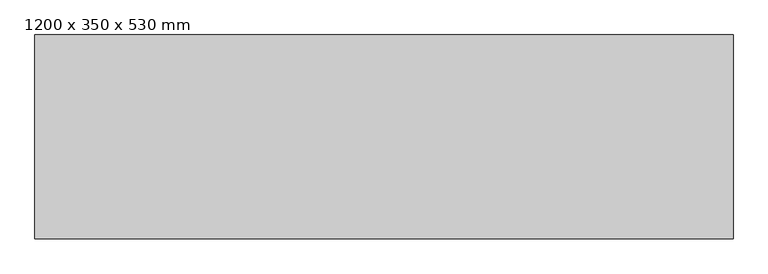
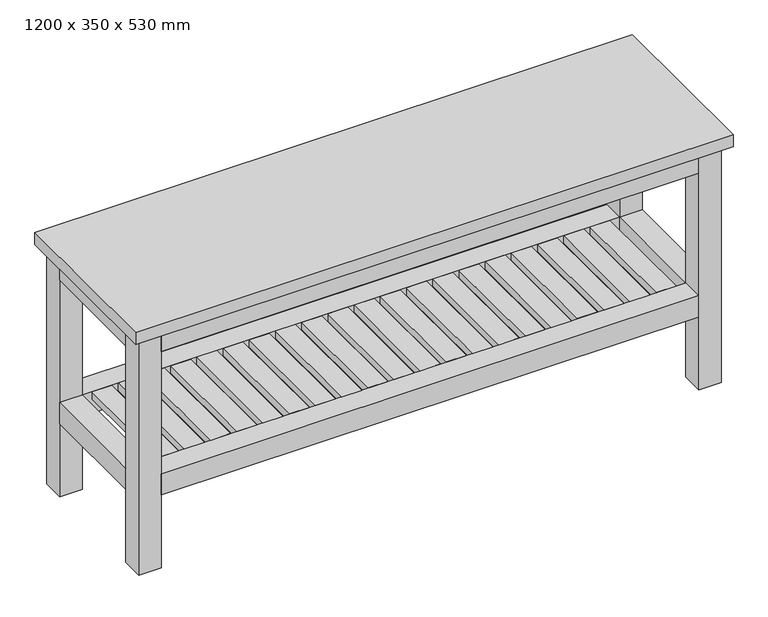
"""IFC4 building model written with IfcOpenShell, lengths in millimetres: furniture geometry, Banc : 1200 x 350 x 530 mm."""

import ifcopenshell
import ifcopenshell.guid

model = None  # the IFC model being written
_history = None  # IfcOwnerHistory: only IFC2X3 demands one
_inside = {}  # id of a spatial element -> (the spatial element, [elements in it])
_under = {}  # id of a project, library or spatial element -> (it, [spatial elements below it])
_declared = {}  # id of a project -> (the project, [libraries it declares])
_typed = {}  # id of a type object -> (the type object, [elements of that type])
_made_of = {}  # id of a material, layer set ... -> (it, [elements and type objects made of it])


def new_model(schema):
    """Start an empty IFC model of exactly this schema.

    Asked for "IFC4X3", IfcOpenShell would pick the latest addendum, in which some entities
    have other attributes; the version numbers below select the first issue.
    IFC2X3 requires an IfcOwnerHistory on every rooted entity: one is made here for all.
    """
    global model, _history
    if schema == "IFC4X3":
        model = ifcopenshell.file(schema_version=(4, 3, 0, 0))
    else:
        model = ifcopenshell.file(schema=schema)
    _inside.clear()
    _under.clear()
    _declared.clear()
    _typed.clear()
    _made_of.clear()
    _history = None
    if model.schema == "IFC2X3":
        org = make("IfcOrganization", Name="unknown")
        user = make(
            "IfcPersonAndOrganization",
            ThePerson=make("IfcPerson", FamilyName="unknown"),
            TheOrganization=org,
        )
        app = make(
            "IfcApplication",
            ApplicationDeveloper=org,
            Version="unknown",
            ApplicationFullName="unknown",
            ApplicationIdentifier="unknown",
        )
        _history = make(
            "IfcOwnerHistory",
            OwningUser=user,
            OwningApplication=app,
            ChangeAction="ADDED",
            CreationDate=0,
        )
    return model


def make(cls, **values):
    """One entity of the class cls with the attributes given. An attribute that is None is left unset."""
    return model.create_entity(
        cls, **{name: value for name, value in values.items() if value is not None}
    )


def rooted(cls, **values):
    """An entity with a GlobalId (a new one), such as an element, a storey or a relation."""
    return make(cls, GlobalId=ifcopenshell.guid.new(), OwnerHistory=_history, **values)


def si_unit(unit_type, name, prefix=None):
    """IfcSIUnit, for example si_unit("LENGTHUNIT", "METRE", prefix="MILLI")."""
    return make("IfcSIUnit", UnitType=unit_type, Prefix=prefix, Name=name)


def assignment(units):
    """IfcUnitAssignment: the units of a project."""
    return None if units is None else make("IfcUnitAssignment", Units=units)


def point(xyz):
    """IfcCartesianPoint."""
    return None if xyz is None else make("IfcCartesianPoint", Coordinates=xyz)


def direction(xyz):
    """IfcDirection."""
    return None if xyz is None else make("IfcDirection", DirectionRatios=xyz)


def frame(location, z_axis=None, x_axis=None):
    """IfcAxis2Placement3D, a coordinate frame: its origin and axes. An axis left out is left unset."""
    return make(
        "IfcAxis2Placement3D",
        Location=point(location),
        Axis=direction(z_axis),
        RefDirection=direction(x_axis),
    )


def origin():
    """The frame at (0, 0, 0) with its axes left unset."""
    return frame((0.0, 0.0, 0.0))


def origin_with_axes():
    """The frame at (0, 0, 0) with the z axis (0, 0, 1) and the x axis (1, 0, 0) written out."""
    return frame((0.0, 0.0, 0.0), z_axis=(0.0, 0.0, 1.0), x_axis=(1.0, 0.0, 0.0))


def place(relative_to, where):
    """IfcLocalPlacement: puts the frame where relative to a parent placement (None: the world)."""
    return make(
        "IfcLocalPlacement", PlacementRelTo=relative_to, RelativePlacement=where
    )


def context(
    kind, dimensions, precision=None, world=None, true_north=None, identifier=None
):
    """IfcGeometricRepresentationContext, for example the 3D "Model" context."""
    return make(
        "IfcGeometricRepresentationContext",
        ContextIdentifier=identifier,
        ContextType=kind,
        CoordinateSpaceDimension=dimensions,
        Precision=precision,
        WorldCoordinateSystem=world,
        TrueNorth=true_north,
    )


def project(units=None, contexts=None):
    """IfcProject with its units and contexts."""
    return rooted(
        "IfcProject",
        Name="project",
        RepresentationContexts=contexts,
        UnitsInContext=assignment(units),
    )


def spatial(cls, under=None, at=None, **own):
    """A site, building, storey or space (cls), placed at a placement, below another one or the project."""
    s = rooted(cls, ObjectPlacement=at, **own)
    if under is not None:
        _under.setdefault(under.id(), (under, []))[1].append(s)
    return s


def polyline(points):
    """IfcPolyline through the points."""
    return make("IfcPolyline", Points=[point(p) for p in points])


def outline(outer, holes=None, kind="AREA"):
    """IfcArbitraryClosedProfileDef: a profile drawn as a closed curve; with holes, ...WithVoids."""
    if holes is None:
        return make("IfcArbitraryClosedProfileDef", ProfileType=kind, OuterCurve=outer)
    return make(
        "IfcArbitraryProfileDefWithVoids",
        ProfileType=kind,
        OuterCurve=outer,
        InnerCurves=holes,
    )


def extrude(swept, where, along, depth):
    """IfcExtrudedAreaSolid: the profile swept, set in the frame where, extruded along a direction by depth."""
    return make(
        "IfcExtrudedAreaSolid",
        SweptArea=swept,
        Position=where,
        ExtrudedDirection=direction(along),
        Depth=depth,
    )


def shape(context_of_items, identifier, shape_type, items):
    """IfcShapeRepresentation: the items that make up one representation, for example the "Body"."""
    return make(
        "IfcShapeRepresentation",
        ContextOfItems=context_of_items,
        RepresentationIdentifier=identifier,
        RepresentationType=shape_type,
        Items=items,
    )


def source(mapping_origin, context_of_items, identifier, shape_type, items):
    """IfcRepresentationMap: a shape defined once, which mapped items show again and again."""
    return make(
        "IfcRepresentationMap",
        MappingOrigin=mapping_origin,
        MappedRepresentation=shape(context_of_items, identifier, shape_type, items),
    )


def transform(
    local_origin,
    x_axis=None,
    y_axis=None,
    z_axis=None,
    scale=None,
    scale2=None,
    scale3=None,
    uniform=True,
):
    """IfcCartesianTransformationOperator3D, or its non-uniform kind. x_axis, y_axis, z_axis: its Axis1, 2, 3."""
    if uniform:
        return make(
            "IfcCartesianTransformationOperator3D",
            Axis1=direction(x_axis),
            Axis2=direction(y_axis),
            LocalOrigin=point(local_origin),
            Scale=scale,
            Axis3=direction(z_axis),
        )
    return make(
        "IfcCartesianTransformationOperator3DnonUniform",
        Axis1=direction(x_axis),
        Axis2=direction(y_axis),
        LocalOrigin=point(local_origin),
        Scale=scale,
        Axis3=direction(z_axis),
        Scale2=scale2,
        Scale3=scale3,
    )


def mapped(mapping_source, mapping_target):
    """IfcMappedItem: shows the shape of a source again, moved by a transform."""
    return make(
        "IfcMappedItem", MappingSource=mapping_source, MappingTarget=mapping_target
    )


def made_of(thing, what):
    """Note that an element or type object is made of a material, layer set ...; save() writes the relation."""
    if what is not None:
        _made_of.setdefault(what.id(), (what, []))[1].append(thing)
    return thing


def element(
    cls,
    number,
    at=None,
    inside=None,
    cuts=None,
    type_object=None,
    material=None,
    context=None,
    identifier="Body",
    shape_type=None,
    held_by="IfcProductDefinitionShape",
    body=None,
    shapes=None,
    **own,
):
    """One element of the class cls, such as IfcWall. Its Tag is "e" and its number.

    at: its placement. inside: the storey or other place that contains it. cuts: it is an
    opening in that element (IfcRelVoidsElement). A single representation is given by context,
    identifier, shape_type and body (its items); several are given by shapes. held_by: the class
    of the entity that holds the representations. save() writes the other relations.
    """
    e = rooted(cls, Tag="e%d" % number, ObjectPlacement=at, **own)
    if body is not None:
        shapes = [shape(context, identifier, shape_type, body)]
    if shapes is not None:
        e.Representation = make(held_by, Representations=shapes)
    if inside is not None:
        _inside.setdefault(inside.id(), (inside, []))[1].append(e)
    if cuts is not None:
        rooted(
            "IfcRelVoidsElement", RelatingBuildingElement=cuts, RelatedOpeningElement=e
        )
    if type_object is not None:
        _typed.setdefault(type_object.id(), (type_object, []))[1].append(e)
    return made_of(e, material)


def aggregate(whole, parts):
    """IfcRelAggregates: a whole, such as a stair, and the parts it consists of."""
    return rooted("IfcRelAggregates", RelatingObject=whole, RelatedObjects=parts)


def save(model, path):
    """Write the relations noted so far, then the file.

    IfcRelAggregates (storeys below a building ...), IfcRelContainedInSpatialStructure (elements
    in a storey), IfcRelDefinesByType, IfcRelAssociatesMaterial and IfcRelDeclares: one each for
    every whole, place, type object, material and project.
    """
    for whole, parts in _under.values():
        aggregate(whole, parts)
    for where, things in _inside.values():
        rooted(
            "IfcRelContainedInSpatialStructure",
            RelatedElements=things,
            RelatingStructure=where,
        )
    for kind, things in _typed.values():
        rooted("IfcRelDefinesByType", RelatedObjects=things, RelatingType=kind)
    for what, things in _made_of.values():
        rooted("IfcRelAssociatesMaterial", RelatedObjects=things, RelatingMaterial=what)
    for by, libraries in _declared.values():
        rooted("IfcRelDeclares", RelatingContext=by, RelatedDefinitions=libraries)
    model.write(path)


def furniture_1200_x_350_x_530_mm_359cf0c6(model_context):
    return source(origin(), model_context, "Body", "SweptSolid", [
        extrude(outline(polyline([(467.3684211, -70.0), (467.3684211, -300.0), (427.3684211, -300.0), (427.3684211, -70.0), (467.3684211, -70.0)])), frame((0.0, 0.0, 185.0), z_axis=(0.0, 0.0, 1.0), x_axis=(1.0, 0.0, 0.0)), (0.0, 0.0, 1.0), 15.0),
        extrude(outline(polyline([(414.7368421, -70.0), (414.7368421, -300.0), (374.7368421, -300.0), (374.7368421, -70.0), (414.7368421, -70.0)])), frame((0.0, 0.0, 185.0), z_axis=(0.0, 0.0, 1.0), x_axis=(1.0, 0.0, 0.0)), (0.0, 0.0, 1.0), 15.0),
        extrude(outline(polyline([(362.1052632, -70.0), (362.1052632, -300.0), (322.1052632, -300.0), (322.1052632, -70.0), (362.1052632, -70.0)])), frame((0.0, 0.0, 185.0), z_axis=(0.0, 0.0, 1.0), x_axis=(1.0, 0.0, 0.0)), (0.0, 0.0, 1.0), 15.0),
        extrude(outline(polyline([(309.4736842, -70.0), (309.4736842, -300.0), (269.4736842, -300.0), (269.4736842, -70.0), (309.4736842, -70.0)])), frame((0.0, 0.0, 185.0), z_axis=(0.0, 0.0, 1.0), x_axis=(1.0, 0.0, 0.0)), (0.0, 0.0, 1.0), 15.0),
        extrude(outline(polyline([(256.8421053, -70.0), (256.8421053, -300.0), (216.8421053, -300.0), (216.8421053, -70.0), (256.8421053, -70.0)])), frame((0.0, 0.0, 185.0), z_axis=(0.0, 0.0, 1.0), x_axis=(1.0, 0.0, 0.0)), (0.0, 0.0, 1.0), 15.0),
        extrude(outline(polyline([(204.2105263, -70.0), (204.2105263, -300.0), (164.2105263, -300.0), (164.2105263, -70.0), (204.2105263, -70.0)])), frame((0.0, 0.0, 185.0), z_axis=(0.0, 0.0, 1.0), x_axis=(1.0, 0.0, 0.0)), (0.0, 0.0, 1.0), 15.0),
        extrude(outline(polyline([(151.5789474, -70.0), (151.5789474, -300.0), (111.5789474, -300.0), (111.5789474, -70.0), (151.5789474, -70.0)])), frame((0.0, 0.0, 185.0), z_axis=(0.0, 0.0, 1.0), x_axis=(1.0, 0.0, 0.0)), (0.0, 0.0, 1.0), 15.0),
        extrude(outline(polyline([(98.9473684, -70.0), (98.9473684, -300.0), (58.9473684, -300.0), (58.9473684, -70.0), (98.9473684, -70.0)])), frame((0.0, 0.0, 185.0), z_axis=(0.0, 0.0, 1.0), x_axis=(1.0, 0.0, 0.0)), (0.0, 0.0, 1.0), 15.0),
        extrude(outline(polyline([(46.3157895, -70.0), (46.3157895, -300.0), (6.3157895, -300.0), (6.3157895, -70.0), (46.3157895, -70.0)])), frame((0.0, 0.0, 185.0), z_axis=(0.0, 0.0, 1.0), x_axis=(1.0, 0.0, 0.0)), (0.0, 0.0, 1.0), 15.0),
        extrude(outline(polyline([(-6.3157895, -70.0), (-6.3157895, -300.0), (-46.3157895, -300.0), (-46.3157895, -70.0), (-6.3157895, -70.0)])), frame((0.0, 0.0, 185.0), z_axis=(0.0, 0.0, 1.0), x_axis=(1.0, 0.0, 0.0)), (0.0, 0.0, 1.0), 15.0),
        extrude(outline(polyline([(-58.9473684, -70.0), (-58.9473684, -300.0), (-98.9473684, -300.0), (-98.9473684, -70.0), (-58.9473684, -70.0)])), frame((0.0, 0.0, 185.0), z_axis=(0.0, 0.0, 1.0), x_axis=(1.0, 0.0, 0.0)), (0.0, 0.0, 1.0), 15.0),
        extrude(outline(polyline([(-111.5789474, -70.0), (-111.5789474, -300.0), (-151.5789474, -300.0), (-151.5789474, -70.0), (-111.5789474, -70.0)])), frame((0.0, 0.0, 185.0), z_axis=(0.0, 0.0, 1.0), x_axis=(1.0, 0.0, 0.0)), (0.0, 0.0, 1.0), 15.0),
        extrude(outline(polyline([(-164.2105263, -70.0), (-164.2105263, -300.0), (-204.2105263, -300.0), (-204.2105263, -70.0), (-164.2105263, -70.0)])), frame((0.0, 0.0, 185.0), z_axis=(0.0, 0.0, 1.0), x_axis=(1.0, 0.0, 0.0)), (0.0, 0.0, 1.0), 15.0),
        extrude(outline(polyline([(-216.8421053, -70.0), (-216.8421053, -300.0), (-256.8421053, -300.0), (-256.8421053, -70.0), (-216.8421053, -70.0)])), frame((0.0, 0.0, 185.0), z_axis=(0.0, 0.0, 1.0), x_axis=(1.0, 0.0, 0.0)), (0.0, 0.0, 1.0), 15.0),
        extrude(outline(polyline([(-269.4736842, -70.0), (-269.4736842, -300.0), (-309.4736842, -300.0), (-309.4736842, -70.0), (-269.4736842, -70.0)])), frame((0.0, 0.0, 185.0), z_axis=(0.0, 0.0, 1.0), x_axis=(1.0, 0.0, 0.0)), (0.0, 0.0, 1.0), 15.0),
        extrude(outline(polyline([(-322.1052632, -70.0), (-322.1052632, -300.0), (-362.1052632, -300.0), (-362.1052632, -70.0), (-322.1052632, -70.0)])), frame((0.0, 0.0, 185.0), z_axis=(0.0, 0.0, 1.0), x_axis=(1.0, 0.0, 0.0)), (0.0, 0.0, 1.0), 15.0),
        extrude(outline(polyline([(-374.7368421, -70.0), (-374.7368421, -300.0), (-414.7368421, -300.0), (-414.7368421, -70.0), (-374.7368421, -70.0)])), frame((0.0, 0.0, 185.0), z_axis=(0.0, 0.0, 1.0), x_axis=(1.0, 0.0, 0.0)), (0.0, 0.0, 1.0), 15.0),
        extrude(outline(polyline([(-427.3684211, -70.0), (-427.3684211, -300.0), (-467.3684211, -300.0), (-467.3684211, -70.0), (-427.3684211, -70.0)])), frame((0.0, 0.0, 185.0), z_axis=(0.0, 0.0, 1.0), x_axis=(1.0, 0.0, 0.0)), (0.0, 0.0, 1.0), 15.0),
        extrude(outline(polyline([(520.0, -70.0), (520.0, -300.0), (480.0, -300.0), (480.0, -70.0), (520.0, -70.0)])), frame((0.0, 0.0, 185.0), z_axis=(0.0, 0.0, 1.0), x_axis=(1.0, 0.0, 0.0)), (0.0, 0.0, 1.0), 15.0),
        extrude(outline(polyline([(-480.0, -70.0), (-480.0, -300.0), (-520.0, -300.0), (-520.0, -70.0), (-480.0, -70.0)])), frame((0.0, 0.0, 185.0), z_axis=(0.0, 0.0, 1.0), x_axis=(1.0, 0.0, 0.0)), (0.0, 0.0, 1.0), 15.0),
        extrude(outline(polyline([(-540.0, -345.0), (-585.0, -345.0), (-585.0, -300.0), (-540.0, -300.0), (-540.0, -345.0)])), origin_with_axes(), (0.0, 0.0, 1.0), 505.0),
        extrude(outline(polyline([(540.0, -300.0), (585.0, -300.0), (585.0, -345.0), (540.0, -345.0), (540.0, -300.0)])), origin_with_axes(), (0.0, 0.0, 1.0), 505.0),
        extrude(outline(polyline([(-540.0, -300.0), (540.0, -300.0), (540.0, -345.0), (-540.0, -345.0), (-540.0, -300.0)])), frame((0.0, 0.0, 155.0), z_axis=(0.0, 0.0, 1.0), x_axis=(1.0, 0.0, 0.0)), (0.0, 0.0, 1.0), 45.0),
        extrude(outline(polyline([(-540.0, -300.0), (540.0, -300.0), (540.0, -345.0), (-540.0, -345.0), (-540.0, -300.0)])), frame((0.0, 0.0, 460.0), z_axis=(0.0, 0.0, 1.0), x_axis=(1.0, 0.0, 0.0)), (0.0, 0.0, 1.0), 45.0),
        extrude(outline(polyline([(585.0, -70.0), (585.0, -300.0), (540.0, -300.0), (540.0, -70.0), (585.0, -70.0)])), frame((0.0, 0.0, 460.0), z_axis=(0.0, 0.0, 1.0), x_axis=(1.0, 0.0, 0.0)), (0.0, 0.0, 1.0), 45.0),
        extrude(outline(polyline([(585.0, -70.0), (585.0, -300.0), (540.0, -300.0), (540.0, -70.0), (585.0, -70.0)])), frame((0.0, 0.0, 155.0), z_axis=(0.0, 0.0, 1.0), x_axis=(1.0, 0.0, 0.0)), (0.0, 0.0, 1.0), 45.0),
        extrude(outline(polyline([(-540.0, -70.0), (-540.0, -300.0), (-585.0, -300.0), (-585.0, -70.0), (-540.0, -70.0)])), frame((0.0, 0.0, 460.0), z_axis=(0.0, 0.0, 1.0), x_axis=(1.0, 0.0, 0.0)), (0.0, 0.0, 1.0), 45.0),
        extrude(outline(polyline([(-540.0, -70.0), (-540.0, -300.0), (-585.0, -300.0), (-585.0, -70.0), (-540.0, -70.0)])), frame((0.0, 0.0, 155.0), z_axis=(0.0, 0.0, 1.0), x_axis=(1.0, 0.0, 0.0)), (0.0, 0.0, 1.0), 45.0),
        extrude(outline(polyline([(-540.0, -25.0), (-540.0, -70.0), (-585.0, -70.0), (-585.0, -25.0), (-540.0, -25.0)])), origin_with_axes(), (0.0, 0.0, 1.0), 505.0),
        extrude(outline(polyline([(585.0, -25.0), (585.0, -70.0), (540.0, -70.0), (540.0, -25.0), (585.0, -25.0)])), origin_with_axes(), (0.0, 0.0, 1.0), 505.0),
        extrude(outline(polyline([(540.0, -70.0), (-540.0, -70.0), (-540.0, -25.0), (540.0, -25.0), (540.0, -70.0)])), frame((0.0, 0.0, 155.0), z_axis=(0.0, 0.0, 1.0), x_axis=(1.0, 0.0, 0.0)), (0.0, 0.0, 1.0), 45.0),
        extrude(outline(polyline([(540.0, -70.0), (-540.0, -70.0), (-540.0, -25.0), (540.0, -25.0), (540.0, -70.0)])), frame((0.0, 0.0, 460.0), z_axis=(0.0, 0.0, 1.0), x_axis=(1.0, 0.0, 0.0)), (0.0, 0.0, 1.0), 45.0),
        extrude(outline(polyline([(600.0, -360.0), (-600.0, -360.0), (-600.0, -10.0), (600.0, -10.0), (600.0, -360.0)])), frame((0.0, 0.0, 505.0), z_axis=(0.0, 0.0, 1.0), x_axis=(1.0, 0.0, 0.0)), (0.0, 0.0, 1.0), 25.0),
    ])


if __name__ == "__main__":
    model = new_model("IFC4")
    model_context = context("Model", 3, world=origin())
    ifc_project = project(units=[si_unit("LENGTHUNIT", "METRE", prefix="MILLI")], contexts=[model_context])
    site = spatial("IfcSite", under=ifc_project)
    building = spatial("IfcBuilding", under=site)
    placement = place(None, origin())
    furniture_1200_x_350_x_530_mm_shape = furniture_1200_x_350_x_530_mm_359cf0c6(model_context)
    element("IfcFurniture", 1, ObjectType="Banc : 1200 x 350 x 530 mm", at=placement, inside=building, context=model_context, shape_type="MappedRepresentation", body=[
        mapped(furniture_1200_x_350_x_530_mm_shape, transform((0.0, 0.0, 0.0), x_axis=(1.0, 0.0, 0.0), y_axis=(0.0, 1.0, 0.0), z_axis=(0.0, 0.0, 1.0))),
    ])
    save(model, "model.ifc")
